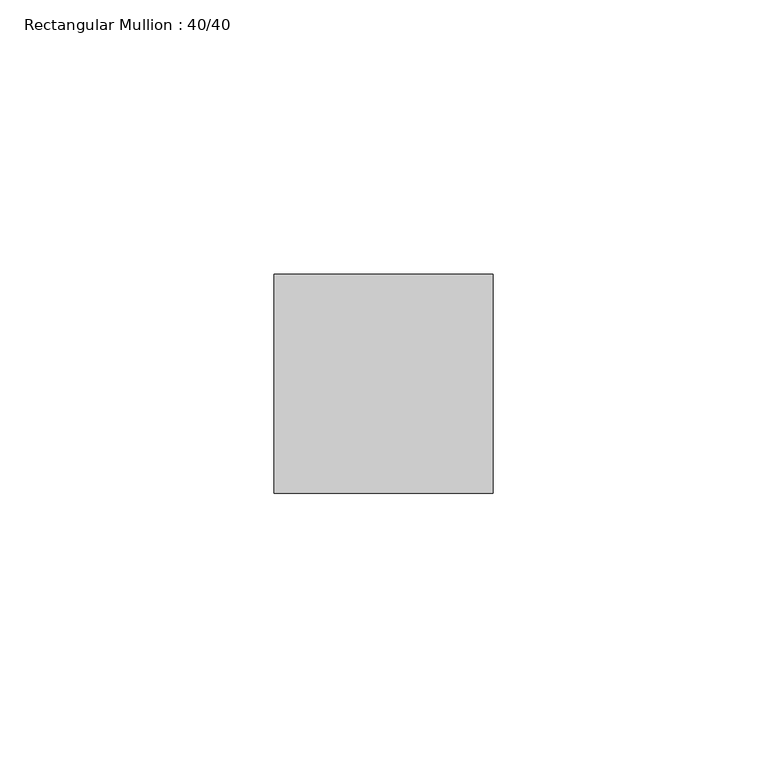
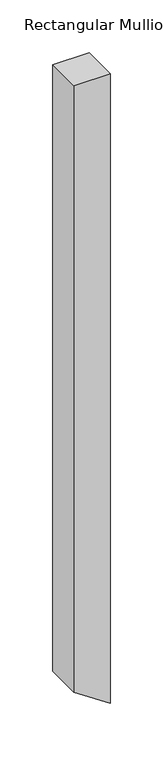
"""IFC4 building model written with IfcOpenShell, lengths in millimetres: member geometry, Rectangular Mullion : 40/40."""

import ifcopenshell
import ifcopenshell.guid

model = None  # the IFC model being written
_history = None  # IfcOwnerHistory: only IFC2X3 demands one
_inside = {}  # id of a spatial element -> (the spatial element, [elements in it])
_under = {}  # id of a project, library or spatial element -> (it, [spatial elements below it])
_declared = {}  # id of a project -> (the project, [libraries it declares])
_typed = {}  # id of a type object -> (the type object, [elements of that type])
_made_of = {}  # id of a material, layer set ... -> (it, [elements and type objects made of it])


def new_model(schema):
    """Start an empty IFC model of exactly this schema.

    Asked for "IFC4X3", IfcOpenShell would pick the latest addendum, in which some entities
    have other attributes; the version numbers below select the first issue.
    IFC2X3 requires an IfcOwnerHistory on every rooted entity: one is made here for all.
    """
    global model, _history
    if schema == "IFC4X3":
        model = ifcopenshell.file(schema_version=(4, 3, 0, 0))
    else:
        model = ifcopenshell.file(schema=schema)
    _inside.clear()
    _under.clear()
    _declared.clear()
    _typed.clear()
    _made_of.clear()
    _history = None
    if model.schema == "IFC2X3":
        org = make("IfcOrganization", Name="unknown")
        user = make(
            "IfcPersonAndOrganization",
            ThePerson=make("IfcPerson", FamilyName="unknown"),
            TheOrganization=org,
        )
        app = make(
            "IfcApplication",
            ApplicationDeveloper=org,
            Version="unknown",
            ApplicationFullName="unknown",
            ApplicationIdentifier="unknown",
        )
        _history = make(
            "IfcOwnerHistory",
            OwningUser=user,
            OwningApplication=app,
            ChangeAction="ADDED",
            CreationDate=0,
        )
    return model


def make(cls, **values):
    """One entity of the class cls with the attributes given. An attribute that is None is left unset."""
    return model.create_entity(
        cls, **{name: value for name, value in values.items() if value is not None}
    )


def rooted(cls, **values):
    """An entity with a GlobalId (a new one), such as an element, a storey or a relation."""
    return make(cls, GlobalId=ifcopenshell.guid.new(), OwnerHistory=_history, **values)


def si_unit(unit_type, name, prefix=None):
    """IfcSIUnit, for example si_unit("LENGTHUNIT", "METRE", prefix="MILLI")."""
    return make("IfcSIUnit", UnitType=unit_type, Prefix=prefix, Name=name)


def assignment(units):
    """IfcUnitAssignment: the units of a project."""
    return None if units is None else make("IfcUnitAssignment", Units=units)


def point(xyz):
    """IfcCartesianPoint."""
    return None if xyz is None else make("IfcCartesianPoint", Coordinates=xyz)


def direction(xyz):
    """IfcDirection."""
    return None if xyz is None else make("IfcDirection", DirectionRatios=xyz)


def frame(location, z_axis=None, x_axis=None):
    """IfcAxis2Placement3D, a coordinate frame: its origin and axes. An axis left out is left unset."""
    return make(
        "IfcAxis2Placement3D",
        Location=point(location),
        Axis=direction(z_axis),
        RefDirection=direction(x_axis),
    )


def origin():
    """The frame at (0, 0, 0) with its axes left unset."""
    return frame((0.0, 0.0, 0.0))


def place(relative_to, where):
    """IfcLocalPlacement: puts the frame where relative to a parent placement (None: the world)."""
    return make(
        "IfcLocalPlacement", PlacementRelTo=relative_to, RelativePlacement=where
    )


def context(
    kind, dimensions, precision=None, world=None, true_north=None, identifier=None
):
    """IfcGeometricRepresentationContext, for example the 3D "Model" context."""
    return make(
        "IfcGeometricRepresentationContext",
        ContextIdentifier=identifier,
        ContextType=kind,
        CoordinateSpaceDimension=dimensions,
        Precision=precision,
        WorldCoordinateSystem=world,
        TrueNorth=true_north,
    )


def project(units=None, contexts=None):
    """IfcProject with its units and contexts."""
    return rooted(
        "IfcProject",
        Name="project",
        RepresentationContexts=contexts,
        UnitsInContext=assignment(units),
    )


def spatial(cls, under=None, at=None, **own):
    """A site, building, storey or space (cls), placed at a placement, below another one or the project."""
    s = rooted(cls, ObjectPlacement=at, **own)
    if under is not None:
        _under.setdefault(under.id(), (under, []))[1].append(s)
    return s


def polyline(points):
    """IfcPolyline through the points."""
    return make("IfcPolyline", Points=[point(p) for p in points])


def outline(outer, holes=None, kind="AREA"):
    """IfcArbitraryClosedProfileDef: a profile drawn as a closed curve; with holes, ...WithVoids."""
    if holes is None:
        return make("IfcArbitraryClosedProfileDef", ProfileType=kind, OuterCurve=outer)
    return make(
        "IfcArbitraryProfileDefWithVoids",
        ProfileType=kind,
        OuterCurve=outer,
        InnerCurves=holes,
    )


def extrude(swept, where, along, depth):
    """IfcExtrudedAreaSolid: the profile swept, set in the frame where, extruded along a direction by depth."""
    return make(
        "IfcExtrudedAreaSolid",
        SweptArea=swept,
        Position=where,
        ExtrudedDirection=direction(along),
        Depth=depth,
    )


def shape(context_of_items, identifier, shape_type, items):
    """IfcShapeRepresentation: the items that make up one representation, for example the "Body"."""
    return make(
        "IfcShapeRepresentation",
        ContextOfItems=context_of_items,
        RepresentationIdentifier=identifier,
        RepresentationType=shape_type,
        Items=items,
    )


def source(mapping_origin, context_of_items, identifier, shape_type, items):
    """IfcRepresentationMap: a shape defined once, which mapped items show again and again."""
    return make(
        "IfcRepresentationMap",
        MappingOrigin=mapping_origin,
        MappedRepresentation=shape(context_of_items, identifier, shape_type, items),
    )


def transform(
    local_origin,
    x_axis=None,
    y_axis=None,
    z_axis=None,
    scale=None,
    scale2=None,
    scale3=None,
    uniform=True,
):
    """IfcCartesianTransformationOperator3D, or its non-uniform kind. x_axis, y_axis, z_axis: its Axis1, 2, 3."""
    if uniform:
        return make(
            "IfcCartesianTransformationOperator3D",
            Axis1=direction(x_axis),
            Axis2=direction(y_axis),
            LocalOrigin=point(local_origin),
            Scale=scale,
            Axis3=direction(z_axis),
        )
    return make(
        "IfcCartesianTransformationOperator3DnonUniform",
        Axis1=direction(x_axis),
        Axis2=direction(y_axis),
        LocalOrigin=point(local_origin),
        Scale=scale,
        Axis3=direction(z_axis),
        Scale2=scale2,
        Scale3=scale3,
    )


def mapped(mapping_source, mapping_target):
    """IfcMappedItem: shows the shape of a source again, moved by a transform."""
    return make(
        "IfcMappedItem", MappingSource=mapping_source, MappingTarget=mapping_target
    )


def made_of(thing, what):
    """Note that an element or type object is made of a material, layer set ...; save() writes the relation."""
    if what is not None:
        _made_of.setdefault(what.id(), (what, []))[1].append(thing)
    return thing


def element(
    cls,
    number,
    at=None,
    inside=None,
    cuts=None,
    type_object=None,
    material=None,
    context=None,
    identifier="Body",
    shape_type=None,
    held_by="IfcProductDefinitionShape",
    body=None,
    shapes=None,
    **own,
):
    """One element of the class cls, such as IfcWall. Its Tag is "e" and its number.

    at: its placement. inside: the storey or other place that contains it. cuts: it is an
    opening in that element (IfcRelVoidsElement). A single representation is given by context,
    identifier, shape_type and body (its items); several are given by shapes. held_by: the class
    of the entity that holds the representations. save() writes the other relations.
    """
    e = rooted(cls, Tag="e%d" % number, ObjectPlacement=at, **own)
    if body is not None:
        shapes = [shape(context, identifier, shape_type, body)]
    if shapes is not None:
        e.Representation = make(held_by, Representations=shapes)
    if inside is not None:
        _inside.setdefault(inside.id(), (inside, []))[1].append(e)
    if cuts is not None:
        rooted(
            "IfcRelVoidsElement", RelatingBuildingElement=cuts, RelatedOpeningElement=e
        )
    if type_object is not None:
        _typed.setdefault(type_object.id(), (type_object, []))[1].append(e)
    return made_of(e, material)


def aggregate(whole, parts):
    """IfcRelAggregates: a whole, such as a stair, and the parts it consists of."""
    return rooted("IfcRelAggregates", RelatingObject=whole, RelatedObjects=parts)


def save(model, path):
    """Write the relations noted so far, then the file.

    IfcRelAggregates (storeys below a building ...), IfcRelContainedInSpatialStructure (elements
    in a storey), IfcRelDefinesByType, IfcRelAssociatesMaterial and IfcRelDeclares: one each for
    every whole, place, type object, material and project.
    """
    for whole, parts in _under.values():
        aggregate(whole, parts)
    for where, things in _inside.values():
        rooted(
            "IfcRelContainedInSpatialStructure",
            RelatedElements=things,
            RelatingStructure=where,
        )
    for kind, things in _typed.values():
        rooted("IfcRelDefinesByType", RelatedObjects=things, RelatingType=kind)
    for what, things in _made_of.values():
        rooted("IfcRelAssociatesMaterial", RelatedObjects=things, RelatingMaterial=what)
    for by, libraries in _declared.values():
        rooted("IfcRelDeclares", RelatingContext=by, RelatedDefinitions=libraries)
    model.write(path)


def rectangular_mullion_40_40_953930e1(model_context):
    return source(origin(), model_context, "Body", "SweptSolid", [
        extrude(outline(polyline([(0.0, 0.0), (0.0, -40.0), (-702.9890452, -40.0), (-730.0, 0.0), (0.0, 0.0)])), frame((0.0, -20.0, 0.0), z_axis=(0.0, 1.0, 0.0), x_axis=(0.0, 0.0, 1.0)), (0.0, 0.0, 1.0), 40.0),
    ])


if __name__ == "__main__":
    model = new_model("IFC4")
    model_context = context("Model", 3, world=origin())
    ifc_project = project(units=[si_unit("LENGTHUNIT", "METRE", prefix="MILLI")], contexts=[model_context])
    site = spatial("IfcSite", under=ifc_project)
    building = spatial("IfcBuilding", under=site)
    placement = place(None, origin())
    rectangular_mullion_40_40_shape = rectangular_mullion_40_40_953930e1(model_context)
    element("IfcMember", 1, ObjectType="Rectangular Mullion : 40/40", at=placement, inside=building, context=model_context, shape_type="MappedRepresentation", body=[
        mapped(rectangular_mullion_40_40_shape, transform((0.0, 0.0, 0.0), x_axis=(1.0, 0.0, 0.0), y_axis=(0.0, 1.0, 0.0), z_axis=(0.0, 0.0, 1.0))),
    ])
    save(model, "model.ifc")
